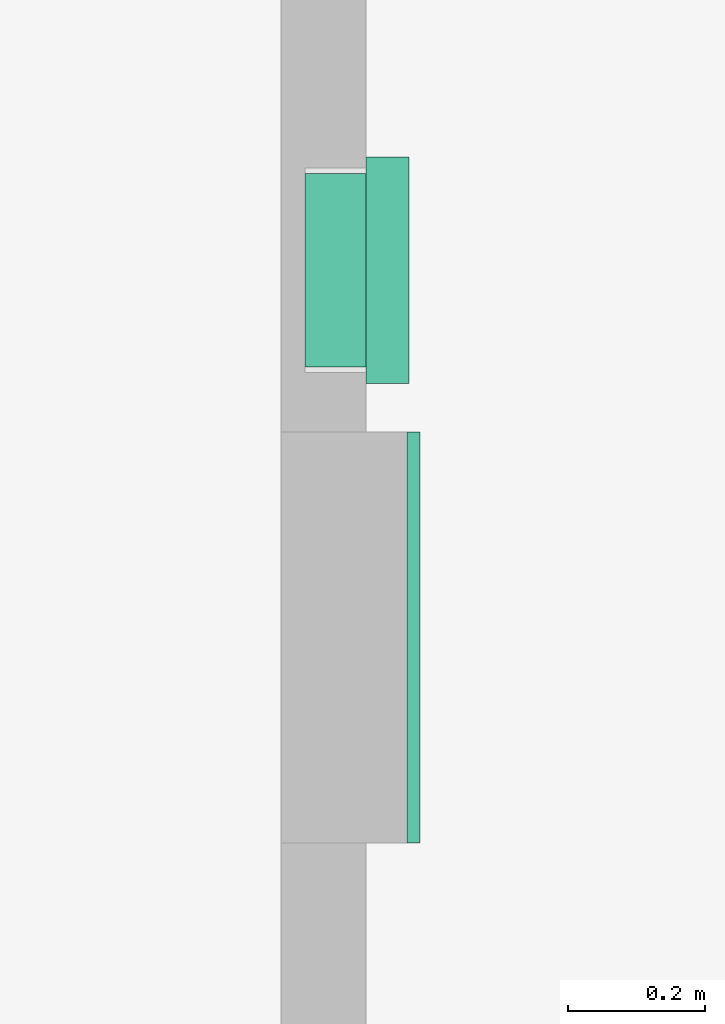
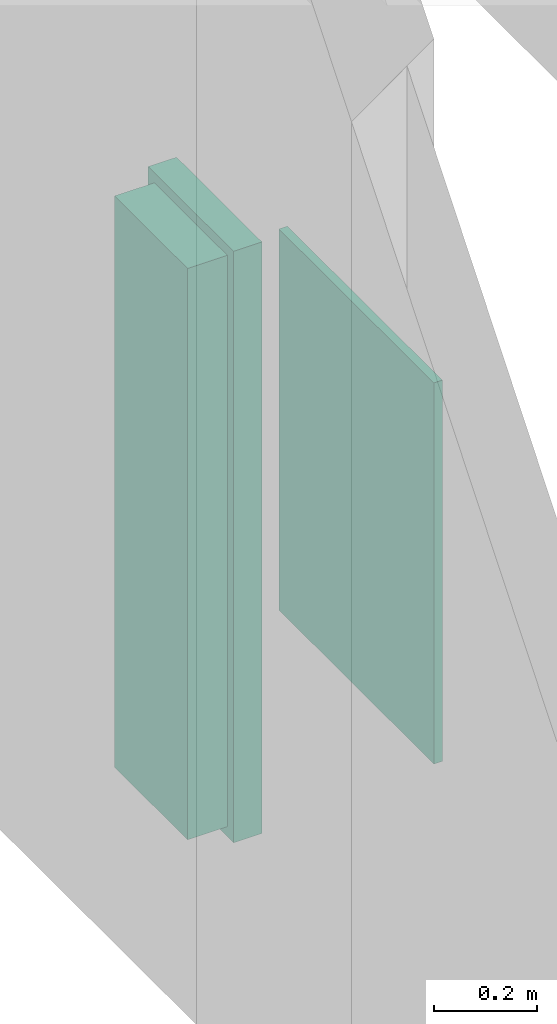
# One storey, part 33 of 47: 2 flow terminals.
"""IFC2X3 building model written with IfcOpenShell, lengths in metres."""

import ifcopenshell
import ifcopenshell.guid

model = None  # the IFC model being written
_history = None  # IfcOwnerHistory: only IFC2X3 demands one
_inside = {}  # id of a spatial element -> (the spatial element, [elements in it])
_under = {}  # id of a project, library or spatial element -> (it, [spatial elements below it])
_declared = {}  # id of a project -> (the project, [libraries it declares])
_typed = {}  # id of a type object -> (the type object, [elements of that type])
_made_of = {}  # id of a material, layer set ... -> (it, [elements and type objects made of it])


def new_model(schema):
    """Start an empty IFC model of exactly this schema.

    Asked for "IFC4X3", IfcOpenShell would pick the latest addendum, in which some entities
    have other attributes; the version numbers below select the first issue.
    IFC2X3 requires an IfcOwnerHistory on every rooted entity: one is made here for all.
    """
    global model, _history
    if schema == "IFC4X3":
        model = ifcopenshell.file(schema_version=(4, 3, 0, 0))
    else:
        model = ifcopenshell.file(schema=schema)
    _inside.clear()
    _under.clear()
    _declared.clear()
    _typed.clear()
    _made_of.clear()
    _history = None
    if model.schema == "IFC2X3":
        org = make("IfcOrganization", Name="unknown")
        user = make(
            "IfcPersonAndOrganization",
            ThePerson=make("IfcPerson", FamilyName="unknown"),
            TheOrganization=org,
        )
        app = make(
            "IfcApplication",
            ApplicationDeveloper=org,
            Version="unknown",
            ApplicationFullName="unknown",
            ApplicationIdentifier="unknown",
        )
        _history = make(
            "IfcOwnerHistory",
            OwningUser=user,
            OwningApplication=app,
            ChangeAction="ADDED",
            CreationDate=0,
        )
    return model


def make(cls, **values):
    """One entity of the class cls with the attributes given. An attribute that is None is left unset."""
    return model.create_entity(
        cls, **{name: value for name, value in values.items() if value is not None}
    )


def entity(cls, *values):
    """Any entity or typed value of the class cls, its attributes in the order of the schema. None: left unset."""
    e = model.create_entity(cls)
    for i, value in enumerate(values):
        if value is not None:
            e[i] = value
    return e


def rooted(cls, **values):
    """An entity with a GlobalId (a new one), such as an element, a storey or a relation."""
    return make(cls, GlobalId=ifcopenshell.guid.new(), OwnerHistory=_history, **values)


def si_unit(unit_type, name, prefix=None):
    """IfcSIUnit, for example si_unit("LENGTHUNIT", "METRE", prefix="MILLI")."""
    return make("IfcSIUnit", UnitType=unit_type, Prefix=prefix, Name=name)


def converted_unit(unit_type, name, factor, base, dimensions=None, offset=None):
    """IfcConversionBasedUnit, such as the inch: factor (a typed value) times the base unit."""
    return make(
        "IfcConversionBasedUnit"
        if offset is None
        else "IfcConversionBasedUnitWithOffset",
        ConversionOffset=offset,
        Dimensions=None
        if dimensions is None
        else entity("IfcDimensionalExponents", *dimensions),
        UnitType=unit_type,
        Name=name,
        ConversionFactor=make(
            "IfcMeasureWithUnit", ValueComponent=factor, UnitComponent=base
        ),
    )


def assignment(units):
    """IfcUnitAssignment: the units of a project."""
    return None if units is None else make("IfcUnitAssignment", Units=units)


def point(xyz):
    """IfcCartesianPoint."""
    return None if xyz is None else make("IfcCartesianPoint", Coordinates=xyz)


def direction(xyz):
    """IfcDirection."""
    return None if xyz is None else make("IfcDirection", DirectionRatios=xyz)


def frame(location, z_axis=None, x_axis=None):
    """IfcAxis2Placement3D, a coordinate frame: its origin and axes. An axis left out is left unset."""
    return make(
        "IfcAxis2Placement3D",
        Location=point(location),
        Axis=direction(z_axis),
        RefDirection=direction(x_axis),
    )


def frame_2d(location, x_axis=None):
    """IfcAxis2Placement2D, a coordinate frame in the plane: its origin and x axis."""
    return make(
        "IfcAxis2Placement2D", Location=point(location), RefDirection=direction(x_axis)
    )


def origin():
    """The frame at (0, 0, 0) with its axes left unset."""
    return frame((0.0, 0.0, 0.0))


def origin_2d_with_axis():
    """The frame at (0, 0) in the plane with the x axis (1, 0) written out."""
    return frame_2d((0.0, 0.0), x_axis=(1.0, 0.0))


def place(relative_to, where):
    """IfcLocalPlacement: puts the frame where relative to a parent placement (None: the world)."""
    return make(
        "IfcLocalPlacement", PlacementRelTo=relative_to, RelativePlacement=where
    )


def context(
    kind, dimensions, precision=None, world=None, true_north=None, identifier=None
):
    """IfcGeometricRepresentationContext, for example the 3D "Model" context."""
    return make(
        "IfcGeometricRepresentationContext",
        ContextIdentifier=identifier,
        ContextType=kind,
        CoordinateSpaceDimension=dimensions,
        Precision=precision,
        WorldCoordinateSystem=world,
        TrueNorth=true_north,
    )


def project(units=None, contexts=None):
    """IfcProject with its units and contexts."""
    return rooted(
        "IfcProject",
        Name="project",
        RepresentationContexts=contexts,
        UnitsInContext=assignment(units),
    )


def spatial(cls, under=None, at=None, **own):
    """A site, building, storey or space (cls), placed at a placement, below another one or the project."""
    s = rooted(cls, ObjectPlacement=at, **own)
    if under is not None:
        _under.setdefault(under.id(), (under, []))[1].append(s)
    return s


def profile(cls, at=None, kind="AREA", **sizes):
    """A parametric profile (cls). Its sizes go by their IFC names, for example OverallWidth=200.0."""
    return make(cls, ProfileType=kind, Position=at, **sizes)


def rectangle(**sizes):
    """IfcRectangleProfileDef."""
    return profile("IfcRectangleProfileDef", **sizes)


def extrude(swept, where, along, depth):
    """IfcExtrudedAreaSolid: the profile swept, set in the frame where, extruded along a direction by depth."""
    return make(
        "IfcExtrudedAreaSolid",
        SweptArea=swept,
        Position=where,
        ExtrudedDirection=direction(along),
        Depth=depth,
    )


def faces_of(points, faces, orient=None, outer=None):
    """IfcFace entities. A face is a list of loops; a loop is a list of indices into points, from 0.

    orient and outer hold one flag for each loop. By default every Orientation is true, the
    first loop of a face is its IfcFaceOuterBound and the others are IfcFaceBound.
    """
    made = []
    for i, loops in enumerate(faces):
        bounds = []
        for j, loop in enumerate(loops):
            is_outer = j == 0 if outer is None else outer[i][j]
            bounds.append(
                make(
                    "IfcFaceOuterBound" if is_outer else "IfcFaceBound",
                    Bound=make("IfcPolyLoop", Polygon=[points[k] for k in loop]),
                    Orientation=True if orient is None else orient[i][j],
                )
            )
        made.append(make("IfcFace", Bounds=bounds))
    return made


def face_set(faces, orient=None, outer=None):
    """The faces of one IfcConnectedFaceSet. surface_model builds it on its shared points."""
    return ("IfcConnectedFaceSet", faces, orient, outer)


def surface_model(cls, points, shells):
    """IfcFaceBasedSurfaceModel or IfcShellBasedSurfaceModel (cls): surfaces that need not close."""
    shared = [point(p) for p in points]
    made = [make(c, CfsFaces=faces_of(shared, fs, o, b)) for c, fs, o, b in shells]
    if cls == "IfcFaceBasedSurfaceModel":
        return make(cls, FbsmFaces=made)
    return make(cls, SbsmBoundary=made)


def shape(context_of_items, identifier, shape_type, items):
    """IfcShapeRepresentation: the items that make up one representation, for example the "Body"."""
    return make(
        "IfcShapeRepresentation",
        ContextOfItems=context_of_items,
        RepresentationIdentifier=identifier,
        RepresentationType=shape_type,
        Items=items,
    )


def source(mapping_origin, context_of_items, identifier, shape_type, items):
    """IfcRepresentationMap: a shape defined once, which mapped items show again and again."""
    return make(
        "IfcRepresentationMap",
        MappingOrigin=mapping_origin,
        MappedRepresentation=shape(context_of_items, identifier, shape_type, items),
    )


def transform(
    local_origin,
    x_axis=None,
    y_axis=None,
    z_axis=None,
    scale=None,
    scale2=None,
    scale3=None,
    uniform=True,
):
    """IfcCartesianTransformationOperator3D, or its non-uniform kind. x_axis, y_axis, z_axis: its Axis1, 2, 3."""
    if uniform:
        return make(
            "IfcCartesianTransformationOperator3D",
            Axis1=direction(x_axis),
            Axis2=direction(y_axis),
            LocalOrigin=point(local_origin),
            Scale=scale,
            Axis3=direction(z_axis),
        )
    return make(
        "IfcCartesianTransformationOperator3DnonUniform",
        Axis1=direction(x_axis),
        Axis2=direction(y_axis),
        LocalOrigin=point(local_origin),
        Scale=scale,
        Axis3=direction(z_axis),
        Scale2=scale2,
        Scale3=scale3,
    )


def mapped(mapping_source, mapping_target):
    """IfcMappedItem: shows the shape of a source again, moved by a transform."""
    return make(
        "IfcMappedItem", MappingSource=mapping_source, MappingTarget=mapping_target
    )


def made_of(thing, what):
    """Note that an element or type object is made of a material, layer set ...; save() writes the relation."""
    if what is not None:
        _made_of.setdefault(what.id(), (what, []))[1].append(thing)
    return thing


def type_object(cls, material=None, **own):
    """A type object (cls), such as IfcWallType, which elements share."""
    return made_of(rooted(cls, **own), material)


def type_shapes(of_type, sources):
    """Give a type object the sources (RepresentationMaps) that its elements show as mapped items."""
    of_type.RepresentationMaps = sources


def element(
    cls,
    number,
    at=None,
    inside=None,
    cuts=None,
    type_object=None,
    material=None,
    context=None,
    identifier="Body",
    shape_type=None,
    held_by="IfcProductDefinitionShape",
    body=None,
    shapes=None,
    **own,
):
    """One element of the class cls, such as IfcWall. Its Tag is "e" and its number.

    at: its placement. inside: the storey or other place that contains it. cuts: it is an
    opening in that element (IfcRelVoidsElement). A single representation is given by context,
    identifier, shape_type and body (its items); several are given by shapes. held_by: the class
    of the entity that holds the representations. save() writes the other relations.
    """
    e = rooted(cls, Tag="e%d" % number, ObjectPlacement=at, **own)
    if body is not None:
        shapes = [shape(context, identifier, shape_type, body)]
    if shapes is not None:
        e.Representation = make(held_by, Representations=shapes)
    if inside is not None:
        _inside.setdefault(inside.id(), (inside, []))[1].append(e)
    if cuts is not None:
        rooted(
            "IfcRelVoidsElement", RelatingBuildingElement=cuts, RelatedOpeningElement=e
        )
    if type_object is not None:
        _typed.setdefault(type_object.id(), (type_object, []))[1].append(e)
    return made_of(e, material)


def aggregate(whole, parts):
    """IfcRelAggregates: a whole, such as a stair, and the parts it consists of."""
    return rooted("IfcRelAggregates", RelatingObject=whole, RelatedObjects=parts)


def save(model, path):
    """Write the relations noted so far, then the file.

    IfcRelAggregates (storeys below a building ...), IfcRelContainedInSpatialStructure (elements
    in a storey), IfcRelDefinesByType, IfcRelAssociatesMaterial and IfcRelDeclares: one each for
    every whole, place, type object, material and project.
    """
    for whole, parts in _under.values():
        aggregate(whole, parts)
    for where, things in _inside.values():
        rooted(
            "IfcRelContainedInSpatialStructure",
            RelatedElements=things,
            RelatingStructure=where,
        )
    for kind, things in _typed.values():
        rooted("IfcRelDefinesByType", RelatedObjects=things, RelatingType=kind)
    for what, things in _made_of.values():
        rooted("IfcRelAssociatesMaterial", RelatedObjects=things, RelatingMaterial=what)
    for by, libraries in _declared.values():
        rooted("IfcRelDeclares", RelatingContext=by, RelatedDefinitions=libraries)
    model.write(path)


model = new_model("IFC2X3")

# Units and contexts
model_context = context("Model", 3, precision=1e-09, world=origin())
plan_context = context("Plan", 3, precision=1e-09, world=origin())
ifc_project = project(units=[si_unit("LENGTHUNIT", "METRE"), si_unit("AREAUNIT", "SQUARE_METRE"), si_unit("VOLUMEUNIT", "CUBIC_METRE"), converted_unit("PLANEANGLEUNIT", "DEGREE", entity("IfcRatioMeasure", 0.01745329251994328), si_unit("PLANEANGLEUNIT", "RADIAN"), dimensions=[0, 0, 0, 0, 0, 0, 0]), si_unit("TIMEUNIT", "SECOND")], contexts=[model_context, plan_context])

# Site, building, storey, space
site_placement = place(None, origin())
site = spatial("IfcSite", under=ifc_project, at=site_placement, Name="Default", CompositionType="ELEMENT")
building_placement = place(site_placement, origin())
building = spatial("IfcBuilding", under=site, at=building_placement, CompositionType="ELEMENT")
storey_placement = place(building_placement, frame((0.0, 0.0, 4.570000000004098)))
storey = spatial("IfcBuildingStorey", under=building, at=storey_placement, Name="Second Floor", CompositionType="ELEMENT", Elevation=4.570000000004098)
space_placement = place(storey_placement, origin())
space = spatial("IfcSpace", under=storey, at=space_placement, Name="2C08", CompositionType="ELEMENT", InteriorOrExteriorSpace="INTERNAL")

# Flow terminals
sanitary_terminal_type_1 = type_object("IfcSanitaryTerminalType", Name="Mirror 600mm x 900mm", PredefinedType="NOTDEFINED")
shared_shape_1 = source(origin(), model_context, "Body", "SweptSolid", [
    extrude(rectangle(XDim=0.01905, YDim=0.5999999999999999, at=origin_2d_with_axis()), frame((0.02447030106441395, 0.101525, 1.0), z_axis=(0.0, 0.0, 1.0), x_axis=(0.0, -1.0, 0.0)), (0.0, 0.0, 1.0), 0.8999999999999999),
])
type_shapes(sanitary_terminal_type_1, [shared_shape_1])
flow_terminal_1_placement = place(space_placement, frame((-31.5180000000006, 40.71984950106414, -0.08499999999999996), z_axis=(0.0, 0.0, 1.0), x_axis=(0.0, -1.0, 0.0)))
element("IfcFlowTerminal", 1, at=flow_terminal_1_placement, inside=space, type_object=sanitary_terminal_type_1, Name="M_Mirror:Mirror 600mm x 900mm:Mirror 600mm x 900mm", ObjectType="Mirror 600mm x 900mm", context=model_context, shape_type="MappedRepresentation", body=[
    mapped(shared_shape_1, transform((0.0, 0.0, 0.0), scale=1.0)),
])
sanitary_terminal_type_2 = type_object("IfcSanitaryTerminalType", Name="Semi-Recessed", PredefinedType="NOTDEFINED")
shared_shape_2 = source(origin(), model_context, "Body", "SurfaceModel", [
    surface_model("IfcFaceBasedSurfaceModel", [(0.3047999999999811, 1.371600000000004, 0.006350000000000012), (0.02539999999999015, 1.371600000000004, 0.006350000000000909), (0.02539999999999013, 0.02540000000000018, 0.006350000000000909), (0.3047999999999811, 0.02540000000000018, 0.006350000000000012), (0.3047999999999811, 1.371600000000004, 0.0), (0.02539999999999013, 1.371600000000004, 0.0), (0.02539999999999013, 0.02540000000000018, 0.0), (0.3047999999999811, 0.02540000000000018, 0.0), (0.3047999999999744, 0.8683625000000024, 0.0314087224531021), (0.304799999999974, 0.8683625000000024, 0.0), (0.304799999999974, 1.371600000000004, 0.0), (0.3047999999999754, 1.371600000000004, 0.1396999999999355), (0.3047999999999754, 0.9274310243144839, 0.139699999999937), (0.3047999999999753, 0.9028355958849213, 0.1191121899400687), (0.304799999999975, 0.8840898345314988, 0.09308548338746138), (0.3047999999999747, 0.8723562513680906, 0.06323391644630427), (0.02539999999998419, 0.8683625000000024, 0.03140872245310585), (0.02539999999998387, 0.8683625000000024, 0.0), (0.02539999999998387, 1.371600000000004, 0.0), (0.02539999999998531, 1.371600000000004, 0.1396999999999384), (0.02539999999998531, 0.9274310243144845, 0.1396999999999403), (0.02539999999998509, 0.9028355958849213, 0.1191121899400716), (0.02539999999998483, 0.8840898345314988, 0.09308548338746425), (0.02539999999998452, 0.8723562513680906, 0.06323391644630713), (0.1650999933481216, 0.8971245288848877, 0.1125374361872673), (0.244423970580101, 0.8850007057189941, 0.0947267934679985), (0.3048000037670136, 0.8934627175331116, 0.1060988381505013), (0.225727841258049, 0.8897196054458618, 0.1024402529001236), (0.1240624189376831, 0.8936511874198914, 0.1080563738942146), (0.1443802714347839, 0.89626145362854, 0.1114614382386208), (0.02539999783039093, 0.8934627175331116, 0.1060988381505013), (0.2975995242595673, 0.8728225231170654, 0.06500939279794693), (0.2961554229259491, 0.8724397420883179, 0.06352298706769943), (0.08576729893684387, 0.8849983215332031, 0.09472260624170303), (0.05923719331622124, 0.8781034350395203, 0.0805450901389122), (0.06810294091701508, 0.8800443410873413, 0.08500713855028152), (0.02539999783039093, 0.8811564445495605, 0.08562259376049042), (0.03954862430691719, 0.8766331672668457, 0.07681932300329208), (0.04958875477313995, 0.8769928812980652, 0.07776296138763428), (0.02539999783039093, 0.8782230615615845, 0.07815969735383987), (0.03264534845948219, 0.875198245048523, 0.07281118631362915), (0.02539999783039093, 0.8767563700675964, 0.0744282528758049), (0.02539999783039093, 0.87602299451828, 0.07256253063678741), (0.2946777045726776, 0.8762261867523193, 0.07572414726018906), (0.3048000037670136, 0.8767563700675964, 0.0744282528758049), (0.3048000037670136, 0.8774896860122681, 0.07629397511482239), (0.2906513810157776, 0.8717893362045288, 0.0609215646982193), (0.3048000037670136, 0.871357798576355, 0.05527761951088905), (0.3048000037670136, 0.8718570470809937, 0.05925576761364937), (0.02539999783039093, 0.874556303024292, 0.06883108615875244), (0.03170676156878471, 0.8735430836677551, 0.0675705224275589), (0.03171554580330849, 0.8739543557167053, 0.06892137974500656), (0.104461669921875, 0.889717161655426, 0.1024366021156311), (0.02539999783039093, 0.8752896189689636, 0.07069680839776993), (0.03172433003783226, 0.8743656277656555, 0.07027223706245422), (0.03218483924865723, 0.8747819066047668, 0.07154171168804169), (0.185808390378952, 0.8962624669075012, 0.1114626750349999), (0.3048000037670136, 0.8703593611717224, 0.04732131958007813), (0.2280749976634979, 0.8709259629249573, 0.05697767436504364), (0.2061262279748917, 0.8936530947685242, 0.1080589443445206), (0.3048000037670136, 0.8752896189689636, 0.07069680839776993), (0.297547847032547, 0.8752022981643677, 0.07282306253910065), (0.2980738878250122, 0.8745774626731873, 0.0708826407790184), (0.2985999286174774, 0.8739525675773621, 0.06894221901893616), (0.3048000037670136, 0.874556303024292, 0.06883108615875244), (0.2709419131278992, 0.8781068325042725, 0.08055329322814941), (0.3048000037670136, 0.8811564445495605, 0.08562259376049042), (0.2620970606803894, 0.8800443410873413, 0.08500713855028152), (0.2805894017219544, 0.8769944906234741, 0.07776710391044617), (0.3048000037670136, 0.8782230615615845, 0.07815969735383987), (0.03435983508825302, 0.8722586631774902, 0.06284872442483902), (0.02539999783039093, 0.872106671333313, 0.06124484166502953), (0.0367727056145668, 0.8719081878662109, 0.06142202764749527), (0.2906513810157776, 0.8766331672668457, 0.07681932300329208), (0.02539999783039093, 0.8718570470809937, 0.05925576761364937), (0.3048000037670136, 0.8738229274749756, 0.06696536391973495), (0.2980997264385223, 0.8733875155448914, 0.06697580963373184), (0.3048000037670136, 0.872106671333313, 0.06124484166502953), (0.2947112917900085, 0.8720570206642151, 0.06203658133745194), (0.02539999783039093, 0.8738229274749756, 0.06696536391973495), (0.3048000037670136, 0.873089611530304, 0.06509964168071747), (0.02539999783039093, 0.8774896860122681, 0.07629397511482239), (0.03438528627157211, 0.8759323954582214, 0.07491400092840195), (0.03677724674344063, 0.8764464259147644, 0.07632055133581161), (0.03261014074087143, 0.8728178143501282, 0.0649920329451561), (0.02539999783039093, 0.8703593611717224, 0.04732131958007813), (0.1650999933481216, 0.8683624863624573, 0.03140872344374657), (0.03954862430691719, 0.8717893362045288, 0.0609215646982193), (0.1021250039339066, 0.8709259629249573, 0.05697767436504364), (0.02539999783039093, 0.871357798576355, 0.05527761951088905), (0.02539999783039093, 0.873089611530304, 0.06509964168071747), (0.2961127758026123, 0.8757142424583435, 0.07427360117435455), (0.3048000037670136, 0.87602299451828, 0.07256253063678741), (0.1650999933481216, 0.8701865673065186, 0.05300865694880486), (0.03954862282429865, 0.9617593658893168, 0.06092156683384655), (0.1650999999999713, 0.9617593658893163, 0.05300865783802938), (0.2906513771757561, 0.9617593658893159, 0.06092156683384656), (0.2927086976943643, 0.9617593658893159, 0.06119241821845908), (0.2946258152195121, 0.9617593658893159, 0.06198651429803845), (0.2962720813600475, 0.9617593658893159, 0.06324973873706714), (0.2975353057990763, 0.9617593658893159, 0.06489600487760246), (0.2983294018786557, 0.9617593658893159, 0.06681312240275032), (0.2986002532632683, 0.9617593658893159, 0.06887044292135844), (0.2983294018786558, 0.9617593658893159, 0.07092776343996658), (0.2975353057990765, 0.9617593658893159, 0.0728448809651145), (0.2962720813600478, 0.9617593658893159, 0.07449114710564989), (0.2946258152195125, 0.9617593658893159, 0.07575437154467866), (0.2927086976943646, 0.9617593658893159, 0.07654846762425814), (0.2906513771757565, 0.9617593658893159, 0.07681931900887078), (0.2806776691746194, 0.9617593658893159, 0.07775040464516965), (0.2710486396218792, 0.9617593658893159, 0.0805114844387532), (0.2620970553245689, 0.9617593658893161, 0.0850071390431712), (0.2316919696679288, 0.9617593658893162, 0.1002429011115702), (0.1989754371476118, 0.9617593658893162, 0.1095287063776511), (0.1651000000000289, 0.9617593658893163, 0.1125374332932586), (0.1312245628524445, 0.9617593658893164, 0.109528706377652), (0.09850803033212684, 0.9617593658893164, 0.1002429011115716), (0.06810294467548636, 0.9617593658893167, 0.08500713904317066), (0.05915136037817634, 0.9617593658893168, 0.08051148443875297), (0.04952233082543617, 0.9617593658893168, 0.07775040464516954), (0.03954862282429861, 0.9617593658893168, 0.07681931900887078), (0.03749130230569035, 0.9617593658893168, 0.0765484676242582), (0.03557418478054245, 0.9617593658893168, 0.07575437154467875), (0.03392791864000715, 0.9617593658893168, 0.07449114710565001), (0.03266469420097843, 0.9617593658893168, 0.07284488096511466), (0.03187059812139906, 0.9617593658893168, 0.07092776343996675), (0.03159974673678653, 0.9617593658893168, 0.06887044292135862), (0.03187059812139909, 0.9617593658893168, 0.06681312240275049), (0.03266469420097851, 0.9617593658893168, 0.0648960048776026), (0.03392791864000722, 0.9617593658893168, 0.06324973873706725), (0.03557418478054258, 0.9617593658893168, 0.06198651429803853), (0.03749130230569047, 0.9617593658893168, 0.06119241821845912), (0.3302000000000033, 1.397000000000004, 0.1523999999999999), (0.0, 1.397000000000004, 0.152400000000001), (0.0, 0.0, 0.152400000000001), (0.3302000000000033, 0.0, 0.1523999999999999), (0.03175000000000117, 0.7016793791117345, 0.1524000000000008), (0.03175000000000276, 0.8960819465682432, 0.1524000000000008), (0.03192255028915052, 0.8975521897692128, 0.1524000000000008), (0.03243082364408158, 0.8989425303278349, 0.1524000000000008), (0.03324719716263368, 0.9001774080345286, 0.1524000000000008), (0.03432730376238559, 0.9011897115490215, 0.1524000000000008), (0.03561244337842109, 0.9019244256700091, 0.1524000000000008), (0.03703277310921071, 0.9023416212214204, 0.1524000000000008), (0.1222300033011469, 0.9119737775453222, 0.1524000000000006), (0.2079699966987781, 0.911973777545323, 0.1524000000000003), (0.2931672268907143, 0.902341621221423, 0.1524), (0.2945875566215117, 0.9019244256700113, 0.1524), (0.2958726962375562, 0.9011897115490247, 0.1524), (0.2969528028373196, 0.9001774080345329, 0.1524), (0.297769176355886, 0.8989425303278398, 0.1524), (0.2982774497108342, 0.8975521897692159, 0.1524), (0.2984500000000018, 0.8960819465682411, 0.1524), (0.2984500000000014, 0.7016793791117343, 0.1524), (0.2982774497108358, 0.7002091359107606, 0.1524), (0.2977691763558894, 0.6988187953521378, 0.1524), (0.2969528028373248, 0.697583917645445, 0.1524), (0.2958726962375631, 0.6965716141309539, 0.1524), (0.29458755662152, 0.6958369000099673, 0.1524), (0.2931672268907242, 0.6954197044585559, 0.1524), (0.2079699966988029, 0.6857875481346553, 0.1524000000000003), (0.1222300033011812, 0.6857875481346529, 0.1524000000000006), (0.03703277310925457, 0.6954197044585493, 0.1524000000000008), (0.03561244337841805, 0.6958369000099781, 0.1524000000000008), (0.0343273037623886, 0.6965716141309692, 0.1524000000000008), (0.03324719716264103, 0.6975839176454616, 0.1524000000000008), (0.03243082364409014, 0.698818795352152, 0.1524000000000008), (0.03192255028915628, 0.7002091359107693, 0.1524000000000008), (0.3063874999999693, 1.373187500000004, 0.0), (0.02381249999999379, 1.373187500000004, 0.0), (0.02381249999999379, 0.02381250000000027, 0.0), (0.3063874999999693, 0.02381250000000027, 0.0), (0.3047999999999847, 1.371600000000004, 0.0), (0.3047999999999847, 0.02540000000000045, 0.0), (0.02539999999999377, 0.02540000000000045, 0.0), (0.02539999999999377, 1.371600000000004, 0.0), (0.304799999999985, 1.371600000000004, 0.08889999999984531), (0.3047999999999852, 1.371600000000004, 0.1396999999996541), (0.3047999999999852, 0.02540000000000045, 0.1396999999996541), (0.304799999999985, 0.02540000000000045, 0.08889999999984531), (0.02539999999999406, 0.02540000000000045, 0.08889999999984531), (0.02539999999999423, 0.02540000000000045, 0.139699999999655), (0.02539999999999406, 1.371600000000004, 0.08889999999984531), (0.02539999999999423, 1.371600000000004, 0.139699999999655), (0.02381249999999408, 1.373187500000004, 0.08889999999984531), (0.3063874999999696, 1.373187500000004, 0.08889999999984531), (0.02381249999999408, 0.02381250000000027, 0.08889999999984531), (0.3063874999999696, 0.02381250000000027, 0.08889999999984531), (0.3302000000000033, 1.397000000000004, 0.08889999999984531), (0.0, 1.397000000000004, 0.08889999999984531), (0.0, 0.0, 0.08889999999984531), (0.3302000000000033, 0.0, 0.08889999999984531), (0.3302000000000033, 1.397000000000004, 0.1396999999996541), (0.0, 1.397000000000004, 0.1396999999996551), (0.0, 0.0, 0.1396999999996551), (0.3302000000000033, 0.0, 0.1396999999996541), (0.0317500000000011, 0.7016793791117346, 0.139699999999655), (0.03175000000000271, 0.8960819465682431, 0.139699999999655), (0.03192255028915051, 0.8975521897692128, 0.139699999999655), (0.03243082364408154, 0.8989425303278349, 0.139699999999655), (0.03324719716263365, 0.9001774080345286, 0.139699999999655), (0.03432730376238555, 0.9011897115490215, 0.139699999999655), (0.03561244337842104, 0.9019244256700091, 0.139699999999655), (0.03703277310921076, 0.9023416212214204, 0.139699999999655), (0.1222300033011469, 0.9119737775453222, 0.1396999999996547), (0.207969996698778, 0.911973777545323, 0.1396999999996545), (0.2931672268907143, 0.902341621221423, 0.1396999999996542), (0.2945875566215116, 0.9019244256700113, 0.1396999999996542), (0.2958726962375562, 0.9011897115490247, 0.1396999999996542), (0.2969528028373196, 0.9001774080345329, 0.1396999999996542), (0.2977691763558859, 0.8989425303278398, 0.1396999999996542), (0.2982774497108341, 0.8975521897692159, 0.1396999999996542), (0.2984500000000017, 0.8960819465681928, 0.1396999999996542), (0.2984500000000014, 0.7016793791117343, 0.1396999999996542), (0.2982774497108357, 0.7002091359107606, 0.1396999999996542), (0.2977691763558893, 0.6988187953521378, 0.1396999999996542), (0.2969528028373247, 0.697583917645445, 0.1396999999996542), (0.295872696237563, 0.6965716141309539, 0.1396999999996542), (0.29458755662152, 0.6958369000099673, 0.1396999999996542), (0.2931672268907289, 0.6954197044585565, 0.1396999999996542), (0.2079699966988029, 0.6857875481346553, 0.1396999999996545), (0.1222300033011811, 0.6857875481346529, 0.1396999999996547), (0.0370327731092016, 0.6954197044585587, 0.139699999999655), (0.03561244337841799, 0.6958369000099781, 0.139699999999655), (0.03432730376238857, 0.6965716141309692, 0.139699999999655), (0.03324719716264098, 0.6975839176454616, 0.139699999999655), (0.03243082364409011, 0.698818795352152, 0.139699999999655), (0.03192255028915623, 0.7002091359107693, 0.139699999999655), (0.02698749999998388, 0.6774923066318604, 0.1206361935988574), (0.02698749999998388, 0.6858000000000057, 0.1206361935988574), (0.02698749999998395, 0.6858000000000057, 0.1397000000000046), (0.02698749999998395, 0.0253999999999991, 0.1397000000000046), (0.02698749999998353, 0.0253999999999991, 0.007937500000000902), (0.02698749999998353, 0.7076898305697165, 0.007937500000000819), (0.3032124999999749, 0.6774923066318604, 0.1206361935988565), (0.3032124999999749, 0.6858000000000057, 0.1206361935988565), (0.3032124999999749, 0.6858000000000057, 0.1397000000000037), (0.3032124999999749, 0.0253999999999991, 0.1397000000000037), (0.3032124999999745, 0.0253999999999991, 0.007937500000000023), (0.3032124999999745, 0.7076898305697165, 0.007937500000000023)], [face_set([[[0, 1, 2, 3]], [[4, 5, 6, 7]], [[1, 0, 4, 5]], [[2, 6, 5, 1]], [[3, 7, 6, 2]], [[0, 3, 7, 4]]]), face_set([[[8, 9, 10, 11, 12, 13, 14, 15]], [[16, 17, 18, 19, 20, 21, 22, 23]], [[9, 8, 16, 17]], [[10, 18, 17, 9]], [[11, 19, 18, 10]], [[12, 11, 19, 20]], [[24, 20, 21]], [[25, 26, 27]], [[28, 29, 21]], [[28, 21, 30]], [[15, 31, 32]], [[22, 33, 30]], [[24, 21, 29]], [[34, 35, 36]], [[37, 38, 39]], [[40, 41, 42]], [[39, 38, 34]], [[22, 35, 33]], [[39, 34, 36]], [[43, 44, 45]], [[46, 47, 48]], [[49, 50, 51]], [[33, 52, 30]], [[53, 54, 55]], [[24, 56, 13]], [[57, 47, 58]], [[24, 13, 12]], [[13, 56, 59]], [[59, 27, 26]], [[60, 61, 62]], [[62, 63, 64]], [[24, 12, 20]], [[55, 42, 53]], [[65, 66, 67]], [[25, 67, 14]], [[25, 14, 26]], [[65, 68, 69]], [[66, 65, 69]], [[70, 71, 72]], [[69, 68, 73]], [[72, 71, 74]], [[26, 13, 59]], [[54, 53, 49]], [[64, 60, 62]], [[75, 63, 76]], [[46, 77, 78]], [[79, 50, 49]], [[80, 76, 31]], [[39, 81, 37]], [[41, 82, 81]], [[49, 51, 54]], [[81, 82, 83]], [[40, 82, 41]], [[70, 84, 23]], [[84, 50, 79]], [[85, 16, 86]], [[28, 30, 52]], [[70, 23, 71]], [[87, 72, 74]], [[85, 88, 89]], [[87, 89, 88]], [[74, 89, 87]], [[84, 90, 23]], [[58, 47, 46]], [[35, 22, 36]], [[63, 75, 64]], [[91, 61, 92]], [[45, 73, 43]], [[80, 75, 76]], [[61, 60, 92]], [[15, 32, 78]], [[45, 69, 73]], [[92, 44, 91]], [[66, 14, 67]], [[84, 79, 90]], [[85, 93, 88]], [[86, 57, 93]], [[31, 15, 80]], [[77, 15, 78]], [[42, 55, 40]], [[58, 93, 57]], [[77, 46, 48]], [[8, 57, 86]], [[37, 81, 83]], [[44, 43, 91]], [[85, 86, 93]], [[94, 95, 96, 97, 98, 99, 100, 101, 102, 103, 104, 105, 106, 107, 108, 109, 110, 111, 112, 113, 114, 115, 116, 117, 118, 119, 120, 121, 122, 123, 124, 125, 126, 127, 128, 129, 130, 131]], [[95, 94, 87, 88, 93]], [[96, 95, 93, 58, 46]], [[46, 96, 97]], [[78, 98, 99]], [[97, 98, 78]], [[99, 100, 31]], [[46, 97, 78]], [[63, 31, 101]], [[31, 78, 99]], [[63, 101, 102]], [[101, 31, 100]], [[61, 104, 105]], [[43, 106, 107]], [[105, 106, 43]], [[73, 107, 108]], [[63, 103, 61]], [[103, 63, 102]], [[61, 103, 104]], [[61, 105, 43]], [[107, 73, 43]], [[108, 68, 73]], [[68, 108, 109]], [[109, 65, 68]], [[110, 67, 65]], [[67, 110, 111]], [[109, 110, 65]], [[111, 112, 25]], [[25, 67, 111]], [[27, 25, 112]], [[112, 59, 27]], [[113, 114, 56]], [[56, 59, 113]], [[24, 56, 114]], [[113, 59, 112]], [[114, 115, 29]], [[29, 24, 114]], [[28, 29, 115]], [[115, 116, 28]], [[116, 117, 33]], [[33, 52, 116]], [[35, 33, 117]], [[116, 52, 28]], [[118, 34, 35]], [[35, 117, 118]], [[118, 119, 34]], [[120, 37, 38]], [[38, 119, 120]], [[34, 119, 38]], [[37, 120, 121]], [[82, 122, 123]], [[121, 122, 83]], [[123, 124, 40]], [[37, 121, 83]], [[83, 122, 82]], [[40, 125, 54]], [[40, 82, 123]], [[54, 125, 126]], [[40, 124, 125]], [[84, 127, 128]], [[129, 84, 128]], [[72, 130, 131]], [[129, 130, 70]], [[87, 131, 94]], [[127, 50, 126]], [[127, 84, 50]], [[126, 50, 54]], [[70, 84, 129]], [[130, 72, 70]], [[131, 87, 72]]]), face_set([[[132, 133, 134, 135], [136, 137, 138, 139, 140, 141, 142, 143, 144, 145, 146, 147, 148, 149, 150, 151, 152, 153, 154, 155, 156, 157, 158, 159, 160, 161, 162, 163, 164, 165, 166, 167]], [[168, 169, 170, 171], [172, 173, 174, 175]], [[172, 176, 177, 178, 179, 173]], [[173, 174, 180, 181, 178, 179]], [[174, 175, 182, 183, 181, 180]], [[175, 182, 183, 177, 176, 172]], [[168, 169, 184, 185]], [[169, 184, 186, 170]], [[170, 186, 187, 171]], [[171, 168, 185, 187]], [[188, 189, 190, 191], [185, 187, 186, 184]], [[133, 132, 192, 188, 189, 193]], [[134, 133, 193, 189, 190, 194]], [[135, 134, 194, 190, 191, 195]], [[132, 135, 195, 191, 188, 192]], [[177, 183, 181, 178], [196, 197, 198, 199, 200, 201, 202, 203, 204, 205, 206, 207, 208, 209, 210, 211, 212, 213, 214, 215, 216, 217, 218, 219, 220, 221, 222, 223, 224, 225, 226, 227]], [[137, 136, 196, 197]], [[198, 197, 137, 138]], [[199, 198, 138, 139]], [[139, 140, 200, 199]], [[202, 201, 141, 142]], [[203, 202, 142, 143]], [[140, 141, 201, 200]], [[203, 143, 144, 204]], [[145, 205, 204, 144]], [[205, 145, 146, 206]], [[207, 206, 146, 147]], [[208, 207, 147, 148]], [[148, 149, 209, 208]], [[212, 211, 151, 152]], [[211, 210, 150, 151]], [[149, 150, 210, 209]], [[153, 213, 212, 152]], [[214, 213, 153, 154]], [[215, 214, 154, 155]], [[155, 156, 216, 215]], [[218, 217, 157, 158]], [[219, 218, 158, 159]], [[156, 157, 217, 216]], [[219, 159, 160, 220]], [[161, 221, 220, 160]], [[221, 161, 162, 222]], [[223, 222, 162, 163]], [[224, 223, 163, 164]], [[164, 165, 225, 224]], [[227, 226, 166, 167]], [[196, 227, 167, 136]], [[165, 166, 226, 225]]]), face_set([[[228, 229, 230, 231, 232, 233]], [[234, 235, 236, 237, 238, 239]], [[233, 228, 234, 239]], [[232, 238, 239, 233]], [[231, 237, 238, 232]], [[230, 231, 237, 236]], [[229, 230, 236, 235]], [[228, 234, 235, 229]]])]),
])
type_shapes(sanitary_terminal_type_2, [shared_shape_2])
flow_terminal_2_placement = place(space_placement, frame((-31.57490000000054, 41.06654685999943, 0.3428999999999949), z_axis=(1.0, 0.0, 0.0), x_axis=(0.0, 1.0, 0.0)))
element("IfcFlowTerminal", 2, at=flow_terminal_2_placement, inside=space, type_object=sanitary_terminal_type_2, Name="M_Towel Dispensers - receptical:Semi-Recessed:Semi-Recessed", ObjectType="Semi-Recessed", context=model_context, shape_type="MappedRepresentation", body=[
    mapped(shared_shape_2, transform((0.0, 0.0, 0.0), scale=1.0)),
])

save(model, "model.ifc")
